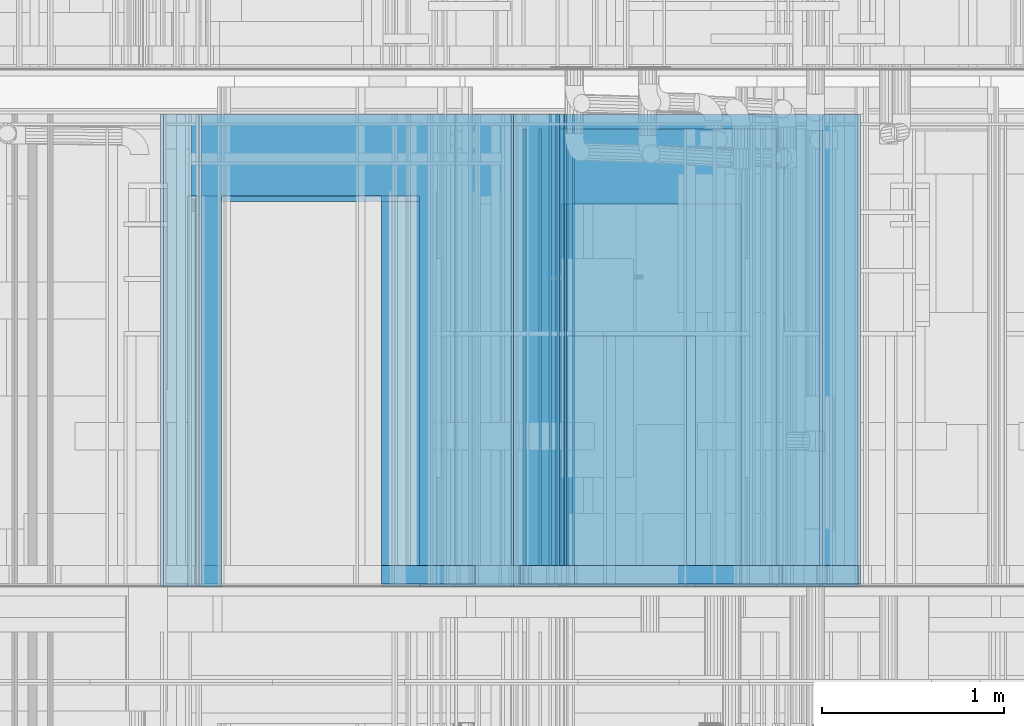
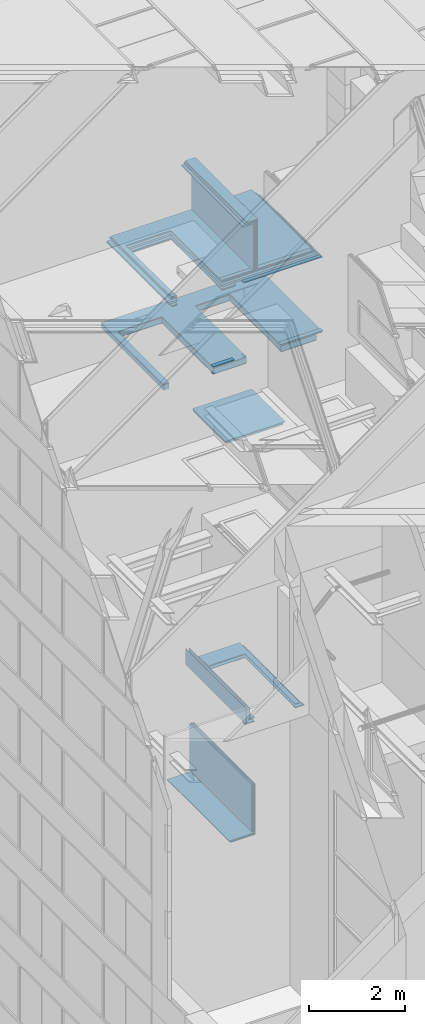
# One storey, part 96 of 583: 41 building element parts, 7 openings, 9 elements without a shape of their own.
"""IFC2X3 building model written with IfcOpenShell, lengths in metres."""

from ifc_helpers import new_model, entity, si_unit, converted_unit, derived_unit, money_unit, direction, frame, frame_2d, origin_with_axes, place, context, subcontext, project, spatial, polyline, rectangle, outline, extrude, material, type_object, element, aggregate, save


model = new_model("IFC2X3")

# Units and contexts
model_context = context("Model", 3, precision=1e-05, world=origin_with_axes(), true_north=direction((0.0, 1.0)))
body_context = subcontext(model_context, "Body", "Model", "MODEL_VIEW", scale=1.0)
ifc_project = project(units=[si_unit("LENGTHUNIT", "METRE"), si_unit("AREAUNIT", "SQUARE_METRE"), si_unit("VOLUMEUNIT", "CUBIC_METRE"), si_unit("ABSORBEDDOSEUNIT", "GRAY"), si_unit("AMOUNTOFSUBSTANCEUNIT", "MOLE"), si_unit("DOSEEQUIVALENTUNIT", "SIEVERT"), si_unit("ELECTRICCAPACITANCEUNIT", "FARAD"), si_unit("ELECTRICCHARGEUNIT", "COULOMB"), si_unit("ELECTRICCONDUCTANCEUNIT", "SIEMENS"), si_unit("ELECTRICCURRENTUNIT", "AMPERE"), si_unit("ELECTRICRESISTANCEUNIT", "OHM"), si_unit("ELECTRICVOLTAGEUNIT", "VOLT"), si_unit("ENERGYUNIT", "JOULE"), si_unit("FORCEUNIT", "NEWTON"), si_unit("FREQUENCYUNIT", "HERTZ"), si_unit("ILLUMINANCEUNIT", "LUX"), si_unit("INDUCTANCEUNIT", "HENRY"), si_unit("LUMINOUSFLUXUNIT", "LUMEN"), si_unit("LUMINOUSINTENSITYUNIT", "CANDELA"), si_unit("MAGNETICFLUXDENSITYUNIT", "TESLA"), si_unit("MAGNETICFLUXUNIT", "WEBER"), si_unit("MASSUNIT", "GRAM"), converted_unit("PLANEANGLEUNIT", "degree", entity("IfcReal", 0.0174532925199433), si_unit("PLANEANGLEUNIT", "RADIAN"), dimensions=[0, 0, 0, 0, 0, 0, 0]), si_unit("POWERUNIT", "WATT"), si_unit("PRESSUREUNIT", "PASCAL"), si_unit("RADIOACTIVITYUNIT", "BECQUEREL"), si_unit("SOLIDANGLEUNIT", "STERADIAN"), si_unit("THERMODYNAMICTEMPERATUREUNIT", "KELVIN"), si_unit("TIMEUNIT", "SECOND"), derived_unit("ACCELERATIONUNIT", [(si_unit("LENGTHUNIT", "METRE"), 1), (si_unit("TIMEUNIT", "SECOND"), -2)]), derived_unit("ANGULARVELOCITYUNIT", [(converted_unit("PLANEANGLEUNIT", "degree", entity("IfcReal", 0.0174532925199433), si_unit("PLANEANGLEUNIT", "RADIAN"), dimensions=[0, 0, 0, 0, 0, 0, 0]), 1), (si_unit("TIMEUNIT", "SECOND"), -1)]), derived_unit("CURVATUREUNIT", [(converted_unit("PLANEANGLEUNIT", "degree", entity("IfcReal", 0.0174532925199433), si_unit("PLANEANGLEUNIT", "RADIAN"), dimensions=[0, 0, 0, 0, 0, 0, 0]), 1), (si_unit("LENGTHUNIT", "METRE"), -1)]), derived_unit("DYNAMICVISCOSITYUNIT", [(si_unit("PRESSUREUNIT", "PASCAL"), 1), (si_unit("TIMEUNIT", "SECOND"), 1)]), derived_unit("HEATFLUXDENSITYUNIT", [(si_unit("POWERUNIT", "WATT"), 1), (si_unit("LENGTHUNIT", "METRE"), -2)]), derived_unit("HEATINGVALUEUNIT", [(si_unit("ENERGYUNIT", "JOULE"), 1), (si_unit("MASSUNIT", "GRAM"), -1)]), derived_unit("INTEGERCOUNTRATEUNIT", [(si_unit("TIMEUNIT", "SECOND"), -1)]), derived_unit("IONCONCENTRATIONUNIT", [(si_unit("MASSUNIT", "GRAM"), 1), (si_unit("VOLUMEUNIT", "CUBIC_METRE"), -1)]), derived_unit("ISOTHERMALMOISTURECAPACITYUNIT", [(si_unit("VOLUMEUNIT", "CUBIC_METRE"), 1), (si_unit("MASSUNIT", "GRAM"), -1)]), derived_unit("KINEMATICVISCOSITYUNIT", [(si_unit("AREAUNIT", "SQUARE_METRE"), 1), (si_unit("TIMEUNIT", "SECOND"), -1)]), derived_unit("LINEARFORCEUNIT", [(si_unit("FORCEUNIT", "NEWTON"), 1), (si_unit("LENGTHUNIT", "METRE"), -1)]), derived_unit("LINEARMOMENTUNIT", [(si_unit("FORCEUNIT", "NEWTON"), 1), (si_unit("LENGTHUNIT", "METRE"), -1)]), derived_unit("LINEARSTIFFNESSUNIT", [(si_unit("FORCEUNIT", "NEWTON"), 1), (si_unit("LENGTHUNIT", "METRE"), -1)]), derived_unit("LINEARVELOCITYUNIT", [(si_unit("LENGTHUNIT", "METRE"), 1), (si_unit("TIMEUNIT", "SECOND"), -1)]), derived_unit("LUMINOUSINTENSITYDISTRIBUTIONUNIT", [(si_unit("LUMINOUSINTENSITYUNIT", "CANDELA"), 1), (si_unit("LUMINOUSFLUXUNIT", "LUMEN"), -1)]), derived_unit("MASSDENSITYUNIT", [(si_unit("MASSUNIT", "GRAM"), 1), (si_unit("VOLUMEUNIT", "CUBIC_METRE"), -1)]), derived_unit("MASSFLOWRATEUNIT", [(si_unit("MASSUNIT", "GRAM"), 1), (si_unit("TIMEUNIT", "SECOND"), -1)]), derived_unit("MASSPERLENGTHUNIT", [(si_unit("MASSUNIT", "GRAM"), 1), (si_unit("LENGTHUNIT", "METRE"), -1)]), derived_unit("MODULUSOFELASTICITYUNIT", [(si_unit("FORCEUNIT", "NEWTON"), 1), (si_unit("AREAUNIT", "SQUARE_METRE"), -1)]), derived_unit("MODULUSOFLINEARSUBGRADEREACTIONUNIT", [(si_unit("FORCEUNIT", "NEWTON"), 1), (si_unit("LENGTHUNIT", "METRE"), -2)]), derived_unit("MODULUSOFROTATIONALSUBGRADEREACTIONUNIT", [(si_unit("FORCEUNIT", "NEWTON"), 1), (si_unit("LENGTHUNIT", "METRE"), 1)]), derived_unit("MODULUSOFSUBGRADEREACTIONUNIT", [(si_unit("FORCEUNIT", "NEWTON"), 1), (si_unit("VOLUMEUNIT", "CUBIC_METRE"), -1)]), derived_unit("MOISTUREDIFFUSIVITYUNIT", [(si_unit("VOLUMEUNIT", "CUBIC_METRE"), 1), (si_unit("TIMEUNIT", "SECOND"), -1)]), derived_unit("MOLECULARWEIGHTUNIT", [(si_unit("MASSUNIT", "GRAM"), 1), (si_unit("AMOUNTOFSUBSTANCEUNIT", "MOLE"), -1)]), derived_unit("PLANARFORCEUNIT", [(si_unit("FORCEUNIT", "NEWTON"), 1), (si_unit("LENGTHUNIT", "METRE"), -2)]), derived_unit("ROTATIONALFREQUENCYUNIT", [(si_unit("TIMEUNIT", "SECOND"), -1)]), derived_unit("ROTATIONALMASSUNIT", [(si_unit("MASSUNIT", "GRAM"), 1), (si_unit("LENGTHUNIT", "METRE"), 2)]), derived_unit("ROTATIONALSTIFFNESSUNIT", [(si_unit("FORCEUNIT", "NEWTON"), 1), (si_unit("LENGTHUNIT", "METRE"), 1), (converted_unit("PLANEANGLEUNIT", "degree", entity("IfcReal", 0.0174532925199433), si_unit("PLANEANGLEUNIT", "RADIAN"), dimensions=[0, 0, 0, 0, 0, 0, 0]), -1)]), derived_unit("SECTIONAREAINTEGRALUNIT", [(si_unit("LENGTHUNIT", "METRE"), 5)]), derived_unit("SECTIONMODULUSUNIT", [(si_unit("LENGTHUNIT", "METRE"), 3)]), derived_unit("SHEARMODULUSUNIT", [(si_unit("FORCEUNIT", "NEWTON"), 1), (si_unit("AREAUNIT", "SQUARE_METRE"), -1)]), derived_unit("SOUNDPOWERUNIT", [(si_unit("ENERGYUNIT", "JOULE"), 1), (si_unit("TIMEUNIT", "SECOND"), -1)]), derived_unit("SPECIFICHEATCAPACITYUNIT", [(si_unit("FORCEUNIT", "NEWTON"), 1), (si_unit("MASSUNIT", "GRAM"), -1), (si_unit("THERMODYNAMICTEMPERATUREUNIT", "KELVIN"), -1)]), derived_unit("TEMPERATUREGRADIENTUNIT", [(si_unit("THERMODYNAMICTEMPERATUREUNIT", "KELVIN"), 1), (si_unit("LENGTHUNIT", "METRE"), -1)]), derived_unit("THERMALADMITTANCEUNIT", [(si_unit("POWERUNIT", "WATT"), 1), (si_unit("AREAUNIT", "SQUARE_METRE"), -1), (si_unit("THERMODYNAMICTEMPERATUREUNIT", "KELVIN"), -1)]), derived_unit("THERMALCONDUCTANCEUNIT", [(si_unit("POWERUNIT", "WATT"), 1), (si_unit("LENGTHUNIT", "METRE"), -1), (si_unit("THERMODYNAMICTEMPERATUREUNIT", "KELVIN"), -1)]), derived_unit("THERMALEXPANSIONCOEFFICIENTUNIT", [(si_unit("THERMODYNAMICTEMPERATUREUNIT", "KELVIN"), -1)]), derived_unit("THERMALRESISTANCEUNIT", [(si_unit("AREAUNIT", "SQUARE_METRE"), 1), (si_unit("POWERUNIT", "WATT"), -1)]), derived_unit("THERMALTRANSMITTANCEUNIT", [(si_unit("POWERUNIT", "WATT"), 1), (si_unit("AREAUNIT", "SQUARE_METRE"), -1), (si_unit("THERMODYNAMICTEMPERATUREUNIT", "KELVIN"), -1)]), derived_unit("TORQUEUNIT", [(si_unit("FORCEUNIT", "NEWTON"), 1), (si_unit("LENGTHUNIT", "METRE"), 1)]), derived_unit("VAPORPERMEABILITYUNIT", [(si_unit("MASSUNIT", "GRAM"), 1), (si_unit("TIMEUNIT", "SECOND"), -1)]), derived_unit("VOLUMETRICFLOWRATEUNIT", [(si_unit("VOLUMEUNIT", "CUBIC_METRE"), 1), (si_unit("TIMEUNIT", "SECOND"), -1)]), derived_unit("WARPINGCONSTANTUNIT", [(si_unit("LENGTHUNIT", "METRE"), 6)]), derived_unit("WARPINGMOMENTUNIT", [(si_unit("FORCEUNIT", "NEWTON"), 1), (si_unit("LENGTHUNIT", "METRE"), 2)]), money_unit("GBP")], contexts=[model_context])

# Site, building, storey
site_placement = place(None, origin_with_axes())
site = spatial("IfcSite", under=ifc_project, at=site_placement, Name="Site", CompositionType="ELEMENT")
building_placement = place(site_placement, origin_with_axes())
building = spatial("IfcBuilding", under=site, at=building_placement, Name="Building01", CompositionType="ELEMENT")
storey_placement = place(building_placement, frame((0.0, 0.0, 20.78), z_axis=(0.0, 0.0, 1.0), x_axis=(1.0, 0.0, 0.0)))
storey = spatial("IfcBuildingStorey", under=building, at=storey_placement, Name="RL", CompositionType="ELEMENT", Elevation=20.78)

# Wall, openings, building element parts
wall_type_1 = type_object("IfcWallType", Name="SHE_A-Walls_Type03a_BlockworkWall_170mm", PredefinedType="NOTDEFINED")
wall_1_placement = place(storey_placement, frame((8.665, 12.13, -2.935), z_axis=(0.0, 1.0, 0.0), x_axis=(-1.0, 0.0, 0.0)))
wall_1 = element("IfcWall", 1, at=wall_1_placement, inside=storey, type_object=wall_type_1, Name="4B", ObjectType="SHE_A-Walls_Type03a_BlockworkWall_170mm")
opening_1_placement = place(wall_1_placement, frame((0.88612, -0.095, 0.0), z_axis=(0.0, 0.0, 1.0), x_axis=(1.0, 0.0, 0.0)))
element("IfcOpeningElement", 2, at=opening_1_placement, cuts=wall_1, Name="Opening", ObjectType="Opening", context=body_context, shape_type="SweptSolid", body=[
    extrude(rectangle(XDim=0.75, YDim=2.142, at=frame_2d((0.375, 1.071), x_axis=(-1.0, 0.0))), frame((0.0, 0.3525, 0.0), z_axis=(0.0, -1.0, 0.0), x_axis=(1.0, 0.0, 0.0)), (0.0, 0.0, 1.0), 0.705),
])
opening_2_placement = place(wall_1_placement, frame((2.554262, -0.095, 0.0), z_axis=(0.0, 0.0, 1.0), x_axis=(1.0, 0.0, 0.0)))
element("IfcOpeningElement", 3, at=opening_2_placement, cuts=wall_1, Name="Opening", ObjectType="Opening", context=body_context, shape_type="SweptSolid", body=[
    extrude(rectangle(XDim=0.984, YDim=2.142, at=frame_2d((0.492, 1.071), x_axis=(-1.0, 0.0))), frame((0.0, 0.3525, 0.0), z_axis=(0.0, -1.0, 0.0), x_axis=(1.0, 0.0, 0.0)), (0.0, 0.0, 1.0), 0.705),
])
opening_3_placement = place(wall_1_placement, frame((2.473, -0.015, 0.0), z_axis=(0.0, 0.0, 1.0), x_axis=(1.0, 0.0, 0.0)))
element("IfcOpeningElement", 4, at=opening_3_placement, cuts=wall_1, Name="Opening", ObjectType="Opening", context=body_context, shape_type="SweptSolid", body=[
    extrude(rectangle(XDim=0.984, YDim=2.142, at=frame_2d((0.492, 1.071), x_axis=(-1.0, 0.0))), frame((0.0, 0.2325, 0.0), z_axis=(0.0, -1.0, 0.0), x_axis=(1.0, 0.0, 0.0)), (0.0, 0.0, 1.0), 0.465),
])
opening_4_placement = place(wall_1_placement, frame((0.84412, -0.015, 0.0), z_axis=(0.0, 0.0, 1.0), x_axis=(1.0, 0.0, 0.0)))
element("IfcOpeningElement", 5, at=opening_4_placement, cuts=wall_1, Name="Opening", ObjectType="Opening", context=body_context, shape_type="SweptSolid", body=[
    extrude(rectangle(XDim=2.142, YDim=0.834, at=frame_2d((0.417, 1.071), x_axis=(0.0, -1.0))), frame((0.0, 0.2325, 0.0), z_axis=(0.0, -1.0, 0.0), x_axis=(1.0, 0.0, 0.0)), (0.0, 0.0, 1.0), 0.465),
])
ifc_material_1 = material(Name="A_BSUK_WallsInternal_Block")
placement_1 = place(wall_1_placement, origin_with_axes())
building_element_part_1 = element("IfcBuildingElementPart", 6, at=placement_1, material=ifc_material_1, Name="1", context=body_context, shape_type="SweptSolid", body=[
    extrude(rectangle(XDim=3.67, YDim=0.14, at=frame_2d((1.835, 0.07), x_axis=(-1.0, 0.0))), origin_with_axes(), (0.0, 0.0, 1.0), 2.59),
])
ifc_material_2 = material(Name="A_BSUK_Walls_Timber")
building_element_part_2 = element("IfcBuildingElementPart", 7, at=placement_1, material=ifc_material_2, Name="2", context=body_context, shape_type="SweptSolid", body=[
    extrude(rectangle(XDim=1.89, YDim=0.015, at=frame_2d((0.775, 0.1625), x_axis=(-1.0, 0.0))), frame((0.0, 0.0, 0.015), z_axis=(0.0, 0.0, 1.0), x_axis=(1.0, 0.0, 0.0)), (0.0, 0.0, 1.0), 0.1),
])
ifc_material_3 = material(Name="A_BSUK_WallInternal_Finishes_Plaster")
building_element_part_3 = element("IfcBuildingElementPart", 8, at=placement_1, material=ifc_material_3, Name="3", context=body_context, shape_type="SweptSolid", body=[
    extrude(rectangle(XDim=3.84, YDim=0.015, at=frame_2d((1.765, 0.1475), x_axis=(-1.0, 0.0))), origin_with_axes(), (0.0, 0.0, 1.0), 2.59),
])
ifc_material_4 = material(Name="A_BSUK_WallInternal_Finishes_Plasterboard")
building_element_part_4 = element("IfcBuildingElementPart", 9, at=placement_1, material=ifc_material_4, Name="4", context=body_context, shape_type="SweptSolid", body=[
    extrude(outline(polyline([(2.205, 0.0), (0.0, 0.0), (0.0, -0.015), (2.19, -0.015), (2.205, 0.0)])), origin_with_axes(), (0.0, 0.0, 1.0), 2.59),
])
building_element_part_5 = element("IfcBuildingElementPart", 10, at=placement_1, material=ifc_material_2, Name="5", context=body_context, shape_type="SweptSolid", body=[
    extrude(outline(polyline([(2.205, -0.015), (0.03, -0.015), (0.03, -0.03), (2.19, -0.03), (2.205, -0.015)])), frame((0.0, 0.0, 0.015), z_axis=(0.0, 0.0, 1.0), x_axis=(1.0, 0.0, 0.0)), (0.0, 0.0, 1.0), 0.1),
])
building_element_part_6 = element("IfcBuildingElementPart", 11, at=placement_1, material=ifc_material_4, Name="6", context=body_context, shape_type="SweptSolid", body=[
    extrude(outline(polyline([(3.515, 0.0), (2.19, 0.0), (2.205, -0.015), (3.515, -0.015), (3.515, 0.0)])), origin_with_axes(), (0.0, 0.0, 1.0), 2.59),
])
building_element_part_7 = element("IfcBuildingElementPart", 12, at=placement_1, material=ifc_material_2, Name="7", context=body_context, shape_type="SweptSolid", body=[
    extrude(outline(polyline([(3.445, 0.17), (1.975, 0.17), (1.975, 0.155), (3.46, 0.155), (3.445, 0.17)])), frame((0.0, 0.0, 0.015), z_axis=(0.0, 0.0, 1.0), x_axis=(1.0, 0.0, 0.0)), (0.0, 0.0, 1.0), 0.1),
])
building_element_part_8 = element("IfcBuildingElementPart", 13, at=placement_1, material=ifc_material_2, Name="8", context=body_context, shape_type="SweptSolid", body=[
    extrude(outline(polyline([(3.445, 0.17), (1.96, 0.17), (1.96, 0.155), (3.46, 0.155), (3.445, 0.17)])), frame((0.0, 0.0, 0.015), z_axis=(0.0, 0.0, 1.0), x_axis=(1.0, 0.0, 0.0)), (0.0, 0.0, 1.0), 0.1),
])
building_element_part_9 = element("IfcBuildingElementPart", 14, at=placement_1, material=ifc_material_2, Name="9", context=body_context, shape_type="SweptSolid", body=[
    extrude(outline(polyline([(3.445, 0.17), (1.96, 0.17), (1.96, 0.155), (3.46, 0.155), (3.445, 0.17)])), frame((0.0, 0.0, 0.015), z_axis=(0.0, 0.0, 1.0), x_axis=(1.0, 0.0, 0.0)), (0.0, 0.0, 1.0), 0.1),
])
building_element_part_10 = element("IfcBuildingElementPart", 15, at=placement_1, material=ifc_material_2, Name="10", context=body_context, shape_type="SweptSolid", body=[
    extrude(rectangle(XDim=1.085, YDim=0.015, at=frame_2d((2.9575, -0.0225), x_axis=(-1.0, 0.0))), frame((0.0, 0.0, 0.015), z_axis=(0.0, 0.0, 1.0), x_axis=(1.0, 0.0, 0.0)), (0.0, 0.0, 1.0), 0.1),
])
aggregate(wall_1, [building_element_part_1, building_element_part_2, building_element_part_3, building_element_part_4, building_element_part_5, building_element_part_6, building_element_part_7, building_element_part_8, building_element_part_9, building_element_part_10])

# Wall, building element parts
wall_type_2 = type_object("IfcWallType", Name="SHE_A-Walls_Type05c_PreWallShell_65mm", PredefinedType="NOTDEFINED")
wall_2_placement = place(storey_placement, frame((6.59, 12.13, -4.815), z_axis=(0.0, 1.0, 0.0), x_axis=(1.0, 0.0, 0.0)))
wall_2 = element("IfcWall", 16, at=wall_2_placement, inside=storey, type_object=wall_type_2, Name="5C", ObjectType="SHE_A-Walls_Type05c_PreWallShell_65mm")
ifc_material_5 = material(Name="A_BSUK_OpeningsClearance")
placement_2 = place(wall_2_placement, origin_with_axes())
building_element_part_11 = element("IfcBuildingElementPart", 17, at=placement_2, material=ifc_material_5, Name="1", context=body_context, shape_type="SweptSolid", body=[
    extrude(rectangle(XDim=1.378, YDim=0.05, at=frame_2d((0.586, -0.025), x_axis=(-1.0, 0.0))), origin_with_axes(), (0.0, 0.0, 1.0), 1.375),
])
building_element_part_12 = element("IfcBuildingElementPart", 18, at=placement_2, material=ifc_material_2, Name="2", context=body_context, shape_type="SweptSolid", body=[
    extrude(rectangle(XDim=1.44, YDim=0.015, at=frame_2d((0.605, -0.0575), x_axis=(-1.0, 0.0))), origin_with_axes(), (0.0, 0.0, 1.0), 1.375),
])
aggregate(wall_2, [building_element_part_11, building_element_part_12])

# Wall, openings, building element parts
wall_type_3 = type_object("IfcWallType", Name="SHE_A-Walls_Type01c_Partywall_225mm_twin_tall", PredefinedType="NOTDEFINED")
wall_3_placement = place(storey_placement, frame((8.732, 12.13, -0.794339), z_axis=(0.0, 1.0, 0.0), x_axis=(-1.0, 0.0, 0.0)))
wall_3 = element("IfcWall", 19, at=wall_3_placement, inside=storey, type_object=wall_type_3, Name="1C", ObjectType="SHE_A-Walls_Type01c_Partywall_225mm_twin_tall")
opening_5_placement = place(wall_3_placement, frame((2.332853, -0.313, -0.03), z_axis=(0.0, 0.0, 1.0), x_axis=(1.0, 0.0, 0.0)))
element("IfcOpeningElement", 20, at=opening_5_placement, cuts=wall_3, Name="Opening", ObjectType="Opening", context=body_context, shape_type="SweptSolid", body=[
    extrude(rectangle(XDim=1.084, YDim=2.142, at=frame_2d((-0.542, 1.071), x_axis=(1.0, 0.0))), frame((0.0, -0.5445, 0.0), z_axis=(0.0, 1.0, 0.0), x_axis=(-1.0, 0.0, 0.0)), (0.0, 0.0, 1.0), 1.089),
])
opening_6_placement = place(wall_3_placement, frame((2.332853, 0.137, 0.0), z_axis=(0.0, 0.0, 1.0), x_axis=(1.0, 0.0, 0.0)))
element("IfcOpeningElement", 21, at=opening_6_placement, cuts=wall_3, Name="Opening", ObjectType="Opening", context=body_context, shape_type="SweptSolid", body=[
    extrude(rectangle(XDim=2.142, YDim=1.084, at=frame_2d((-0.542, 1.071), x_axis=(0.0, -1.0))), frame((0.0, -0.2055, 0.0), z_axis=(0.0, 1.0, 0.0), x_axis=(-1.0, 0.0, 0.0)), (0.0, 0.0, 1.0), 0.411),
])
ifc_material_6 = material(Name="A_BSUK_Insulation")
placement_3 = place(wall_3_placement, origin_with_axes())
building_element_part_13 = element("IfcBuildingElementPart", 22, at=placement_3, material=ifc_material_6, Name="1", context=body_context, shape_type="SweptSolid", body=[
    extrude(outline(polyline([(3.614, 0.05), (0.05, 0.05), (0.0, 0.0), (3.614, 0.0), (3.614, 0.05)])), origin_with_axes(), (0.0, 0.0, 1.0), 2.59),
])
building_element_part_14 = element("IfcBuildingElementPart", 23, at=placement_3, material=ifc_material_2, Name="2", context=body_context, shape_type="SweptSolid", body=[
    extrude(rectangle(XDim=1.33, YDim=0.015, at=frame_2d((0.817, 0.1445), x_axis=(-1.0, 0.0))), frame((0.0, 0.0, 0.015), z_axis=(0.0, 0.0, 1.0), x_axis=(1.0, 0.0, 0.0)), (0.0, 0.0, 1.0), 0.1),
])
building_element_part_15 = element("IfcBuildingElementPart", 24, at=placement_3, material=ifc_material_4, Name="3", context=body_context, shape_type="SweptSolid", body=[
    extrude(rectangle(XDim=3.405, YDim=0.015, at=frame_2d((1.8245, 0.1295), x_axis=(-1.0, 0.0))), origin_with_axes(), (0.0, 0.0, 1.0), 2.59),
])
building_element_part_16 = element("IfcBuildingElementPart", 25, at=placement_3, material=ifc_material_4, Name="4", context=body_context, shape_type="SweptSolid", body=[
    extrude(outline(polyline([(3.557, 0.122), (0.122, 0.122), (0.107, 0.107), (3.557, 0.107), (3.557, 0.122)])), origin_with_axes(), (0.0, 0.0, 1.0), 2.59),
])
building_element_part_17 = element("IfcBuildingElementPart", 26, at=placement_3, material=ifc_material_4, Name="5", context=body_context, shape_type="SweptSolid", body=[
    extrude(rectangle(XDim=1.89, YDim=0.015, at=frame_2d((0.887, -0.0655), x_axis=(-1.0, 0.0))), origin_with_axes(), (0.0, 0.0, 1.0), 2.59),
])
building_element_part_18 = element("IfcBuildingElementPart", 27, at=placement_3, material=ifc_material_4, Name="6", context=body_context, shape_type="SweptSolid", body=[
    extrude(rectangle(XDim=1.89, YDim=0.015, at=frame_2d((0.872, -0.0805), x_axis=(-1.0, 0.0))), origin_with_axes(), (0.0, 0.0, 1.0), 2.59),
])
building_element_part_19 = element("IfcBuildingElementPart", 28, at=placement_3, material=ifc_material_2, Name="7", context=body_context, shape_type="SweptSolid", body=[
    extrude(outline(polyline([(1.787, -0.088), (-0.073, -0.088), (-0.088, -0.103), (1.787, -0.103), (1.787, -0.088)])), frame((0.0, 0.0, 0.015), z_axis=(0.0, 0.0, 1.0), x_axis=(1.0, 0.0, 0.0)), (0.0, 0.0, 1.0), 0.1),
])
building_element_part_20 = element("IfcBuildingElementPart", 29, at=placement_3, material=ifc_material_2, Name="8", context=body_context, shape_type="SweptSolid", body=[
    extrude(outline(polyline([(1.802, -0.088), (-0.073, -0.088), (-0.088, -0.103), (1.802, -0.103), (1.802, -0.088)])), frame((0.0, 0.0, 0.015), z_axis=(0.0, 0.0, 1.0), x_axis=(1.0, 0.0, 0.0)), (0.0, 0.0, 1.0), 0.1),
])
building_element_part_21 = element("IfcBuildingElementPart", 30, at=placement_3, material=ifc_material_4, Name="9", context=body_context, shape_type="SweptSolid", body=[
    extrude(outline(polyline([(0.122, -0.073), (-0.088, -0.073), (-0.088, -0.088), (0.137, -0.088), (0.122, -0.073)])), origin_with_axes(), (0.0, 0.0, 1.0), 2.59),
])
building_element_part_22 = element("IfcBuildingElementPart", 31, at=placement_3, material=ifc_material_4, Name="10", context=body_context, shape_type="SweptSolid", body=[
    extrude(outline(polyline([(0.122, -0.058), (-0.073, -0.058), (-0.073, -0.073), (0.137, -0.073), (0.122, -0.058)])), origin_with_axes(), (0.0, 0.0, 1.0), 2.59),
])
building_element_part_23 = element("IfcBuildingElementPart", 32, at=placement_3, material=ifc_material_2, Name="11", context=body_context, shape_type="SweptSolid", body=[
    extrude(rectangle(XDim=1.935, YDim=0.015, at=frame_2d((2.5595, 0.1445), x_axis=(-1.0, 0.0))), frame((0.0, 0.0, 0.015), z_axis=(0.0, 0.0, 1.0), x_axis=(1.0, 0.0, 0.0)), (0.0, 0.0, 1.0), 0.1),
])
building_element_part_24 = element("IfcBuildingElementPart", 33, at=placement_3, material=ifc_material_4, Name="12", context=body_context, shape_type="SweptSolid", body=[
    extrude(rectangle(XDim=1.515, YDim=0.015, at=frame_2d((2.7695, -0.0805), x_axis=(-1.0, 0.0))), origin_with_axes(), (0.0, 0.0, 1.0), 2.59),
])
building_element_part_25 = element("IfcBuildingElementPart", 34, at=placement_3, material=ifc_material_4, Name="13", context=body_context, shape_type="SweptSolid", body=[
    extrude(rectangle(XDim=1.53, YDim=0.015, at=frame_2d((2.777, -0.0655), x_axis=(-1.0, 0.0))), origin_with_axes(), (0.0, 0.0, 1.0), 2.59),
])
aggregate(wall_3, [building_element_part_13, building_element_part_14, building_element_part_15, building_element_part_16, building_element_part_17, building_element_part_18, building_element_part_19, building_element_part_20, building_element_part_21, building_element_part_22, building_element_part_23, building_element_part_24, building_element_part_25])

# Wall, building element parts
wall_type_4 = type_object("IfcWallType", Name="SHE_A-Walls_Type04c_RiserWall_102mm_tall", PredefinedType="NOTDEFINED")
wall_4_placement = place(storey_placement, frame((6.968405, 12.145, -11.72), z_axis=(0.0, 1.0, 0.0), x_axis=(0.0, 0.0, -1.0)))
wall_4 = element("IfcWall", 35, at=wall_4_placement, inside=storey, type_object=wall_type_4, Name="4C", ObjectType="SHE_A-Walls_Type04c_RiserWall_102mm_tall")
placement_4 = place(wall_4_placement, origin_with_axes())
building_element_part_26 = element("IfcBuildingElementPart", 36, at=placement_4, material=ifc_material_4, Name="2", context=body_context, shape_type="SweptSolid", body=[
    extrude(outline(polyline([(0.402, 0.0), (0.0, 0.0), (0.0, -0.015), (0.387, -0.015), (0.402, 0.0)])), frame((0.0, 0.0, -0.015), z_axis=(0.0, 0.0, 1.0), x_axis=(1.0, 0.0, 0.0)), (0.0, 0.0, 1.0), 2.51),
])
building_element_part_27 = element("IfcBuildingElementPart", 37, at=placement_4, material=ifc_material_4, Name="3", context=body_context, shape_type="SweptSolid", body=[
    extrude(outline(polyline([(0.315, -0.087), (0.015, -0.087), (0.015, -0.102), (0.3, -0.102), (0.315, -0.087)])), frame((0.0, 0.0, -0.015), z_axis=(0.0, 0.0, 1.0), x_axis=(1.0, 0.0, 0.0)), (0.0, 0.0, 1.0), 2.51),
])
aggregate(wall_4, [building_element_part_26, building_element_part_27])

# Wall, opening, building element parts
wall_5_placement = place(storey_placement, frame((6.968405, 12.145, -12.122), z_axis=(0.0, 1.0, 0.0), x_axis=(1.0, 0.0, 0.0)))
wall_5 = element("IfcWall", 38, at=wall_5_placement, inside=storey, type_object=wall_type_4, Name="4C", ObjectType="SHE_A-Walls_Type04c_RiserWall_102mm_tall")
opening_7_placement = place(wall_5_placement, frame((0.21, 0.0, -0.015), z_axis=(0.0, 0.0, 1.0), x_axis=(1.0, 0.0, 0.0)))
element("IfcOpeningElement", 39, at=opening_7_placement, cuts=wall_5, Name="Opening", ObjectType="Opening", context=body_context, shape_type="SweptSolid", body=[
    extrude(rectangle(XDim=2.1, YDim=0.984, at=frame_2d((-0.492, 1.05), x_axis=(0.0, -1.0))), frame((0.0, -2.797242, 0.0), z_axis=(0.0, 1.0, 0.0), x_axis=(-1.0, 0.0, 0.0)), (0.0, 0.0, 1.0), 5.594484),
])
placement_5 = place(wall_5_placement, origin_with_axes())
building_element_part_28 = element("IfcBuildingElementPart", 40, at=placement_5, material=ifc_material_2, Name="1", context=body_context, shape_type="SweptSolid", body=[
    extrude(outline(polyline([(1.419, 0.015), (-0.015, 0.015), (0.0, 0.0), (1.404, 0.0), (1.419, 0.015)])), origin_with_axes(), (0.0, 0.0, 1.0), 0.1),
])
building_element_part_29 = element("IfcBuildingElementPart", 41, at=placement_5, material=ifc_material_4, Name="2", context=body_context, shape_type="SweptSolid", body=[
    extrude(outline(polyline([(1.389, 0.0), (0.0, 0.0), (0.015, -0.015), (1.389, -0.015), (1.389, 0.0)])), frame((0.0, 0.0, -0.015), z_axis=(0.0, 0.0, 1.0), x_axis=(1.0, 0.0, 0.0)), (0.0, 0.0, 1.0), 2.51),
])
building_element_part_30 = element("IfcBuildingElementPart", 42, at=placement_5, material=ifc_material_4, Name="3", context=body_context, shape_type="SweptSolid", body=[
    extrude(outline(polyline([(1.317, -0.087), (0.087, -0.087), (0.102, -0.102), (1.302, -0.102), (1.317, -0.087)])), frame((0.0, 0.0, -0.015), z_axis=(0.0, 0.0, 1.0), x_axis=(1.0, 0.0, 0.0)), (0.0, 0.0, 1.0), 2.51),
])
aggregate(wall_5, [building_element_part_28, building_element_part_29, building_element_part_30])

# Wall, building element parts
wall_type_5 = type_object("IfcWallType", Name="SHE_A-Walls_Type05a_Partition_95mm_tall", PredefinedType="NOTDEFINED")
wall_6_placement = place(storey_placement, frame((6.571475, 12.13, -14.975331), z_axis=(0.0, 1.0, 0.0), x_axis=(1.0, 0.0, 0.0)))
wall_6 = element("IfcWall", 43, at=wall_6_placement, inside=storey, type_object=wall_type_5, Name="5A", ObjectType="SHE_A-Walls_Type05a_Partition_95mm_tall")
placement_6 = place(wall_6_placement, origin_with_axes())
building_element_part_31 = element("IfcBuildingElementPart", 44, at=placement_6, material=ifc_material_6, Name="1", context=body_context, shape_type="SweptSolid", body=[
    extrude(outline(polyline([(0.6, 0.0), (0.0, 0.0), (0.0, -0.025), (0.575, -0.025), (0.6, 0.0)])), origin_with_axes(), (0.0, 0.0, 1.0), 2.59),
])
building_element_part_32 = element("IfcBuildingElementPart", 45, at=placement_6, material=ifc_material_4, Name="5", context=body_context, shape_type="SweptSolid", body=[
    extrude(outline(polyline([(0.635, 0.035), (0.035, 0.035), (0.023, 0.023), (0.623, 0.023), (0.635, 0.035)])), origin_with_axes(), (0.0, 0.0, 1.0), 2.59),
])
aggregate(wall_6, [building_element_part_31, building_element_part_32])

wall_7_placement = place(storey_placement, frame((6.965, 12.13, 0.602661), z_axis=(0.0, 1.0, 0.0), x_axis=(1.0, 0.0, 0.0)))
wall_7 = element("IfcWall", 46, at=wall_7_placement, inside=storey, type_object=wall_type_5, Name="5A", ObjectType="SHE_A-Walls_Type05a_Partition_95mm_tall")
placement_7 = place(wall_7_placement, origin_with_axes())
building_element_part_33 = element("IfcBuildingElementPart", 47, at=placement_7, material=ifc_material_6, Name="1", context=body_context, shape_type="SweptSolid", body=[
    extrude(outline(polyline([(0.225, 0.025), (0.0, 0.025), (0.0, 0.0), (0.25, 0.0), (0.225, 0.025)])), origin_with_axes(), (0.0, 0.0, 1.0), 2.59),
])
building_element_part_34 = element("IfcBuildingElementPart", 48, at=placement_7, material=ifc_material_4, Name="4", context=body_context, shape_type="SweptSolid", body=[
    extrude(outline(polyline([(0.19, 0.06), (-0.06, 0.06), (-0.048, 0.048), (0.202, 0.048), (0.19, 0.06)])), origin_with_axes(), (0.0, 0.0, 1.0), 2.59),
])
building_element_part_35 = element("IfcBuildingElementPart", 49, at=placement_7, material=ifc_material_4, Name="5", context=body_context, shape_type="SweptSolid", body=[
    extrude(outline(polyline([(0.273, -0.023), (0.023, -0.023), (0.035, -0.035), (0.285, -0.035), (0.273, -0.023)])), origin_with_axes(), (0.0, 0.0, 1.0), 2.59),
])
aggregate(wall_7, [building_element_part_33, building_element_part_34, building_element_part_35])

wall_8_placement = place(storey_placement, frame((7.215, 12.13, 0.602661), z_axis=(0.0, 1.0, 0.0), x_axis=(0.0, 0.0, -1.0)))
wall_8 = element("IfcWall", 50, at=wall_8_placement, inside=storey, type_object=wall_type_5, Name="5A", ObjectType="SHE_A-Walls_Type05a_Partition_95mm_tall")
placement_8 = place(wall_8_placement, origin_with_axes())
building_element_part_36 = element("IfcBuildingElementPart", 51, at=placement_8, material=ifc_material_6, Name="1", context=body_context, shape_type="SweptSolid", body=[
    extrude(outline(polyline([(1.26, 0.025), (0.025, 0.025), (0.0, 0.0), (1.26, 0.0), (1.26, 0.025)])), origin_with_axes(), (0.0, 0.0, 1.0), 2.59),
])
building_element_part_37 = element("IfcBuildingElementPart", 52, at=placement_8, material=ifc_material_4, Name="4", context=body_context, shape_type="SweptSolid", body=[
    extrude(outline(polyline([(1.26, 0.06), (0.06, 0.06), (0.048, 0.048), (1.26, 0.048), (1.26, 0.06)])), origin_with_axes(), (0.0, 0.0, 1.0), 2.59),
])
building_element_part_38 = element("IfcBuildingElementPart", 53, at=placement_8, material=ifc_material_4, Name="5", context=body_context, shape_type="SweptSolid", body=[
    extrude(outline(polyline([(1.26, -0.023), (-0.023, -0.023), (-0.035, -0.035), (1.26, -0.035), (1.26, -0.023)])), origin_with_axes(), (0.0, 0.0, 1.0), 2.59),
])
aggregate(wall_8, [building_element_part_36, building_element_part_37, building_element_part_38])

wall_9_placement = place(storey_placement, frame((7.171475, 12.13, -14.975331), z_axis=(0.0, 1.0, 0.0), x_axis=(0.0, 0.0, 1.0)))
wall_9 = element("IfcWall", 54, at=wall_9_placement, inside=storey, type_object=wall_type_5, Name="5A", ObjectType="SHE_A-Walls_Type05a_Partition_95mm_tall")
placement_9 = place(wall_9_placement, origin_with_axes())
building_element_part_39 = element("IfcBuildingElementPart", 55, at=placement_9, material=ifc_material_6, Name="1", context=body_context, shape_type="SweptSolid", body=[
    extrude(outline(polyline([(1.26, 0.0), (0.0, 0.0), (0.025, -0.025), (1.26, -0.025), (1.26, 0.0)])), origin_with_axes(), (0.0, 0.0, 1.0), 2.59),
])
building_element_part_40 = element("IfcBuildingElementPart", 56, at=placement_9, material=ifc_material_4, Name="4", context=body_context, shape_type="SweptSolid", body=[
    extrude(outline(polyline([(1.26, -0.048), (0.048, -0.048), (0.06, -0.06), (1.26, -0.06), (1.26, -0.048)])), origin_with_axes(), (0.0, 0.0, 1.0), 2.59),
])
building_element_part_41 = element("IfcBuildingElementPart", 57, at=placement_9, material=ifc_material_4, Name="5", context=body_context, shape_type="SweptSolid", body=[
    extrude(outline(polyline([(1.26, 0.035), (-0.035, 0.035), (-0.023, 0.023), (1.26, 0.023), (1.26, 0.035)])), origin_with_axes(), (0.0, 0.0, 1.0), 2.59),
])
aggregate(wall_9, [building_element_part_39, building_element_part_40, building_element_part_41])

save(model, "model.ifc")
